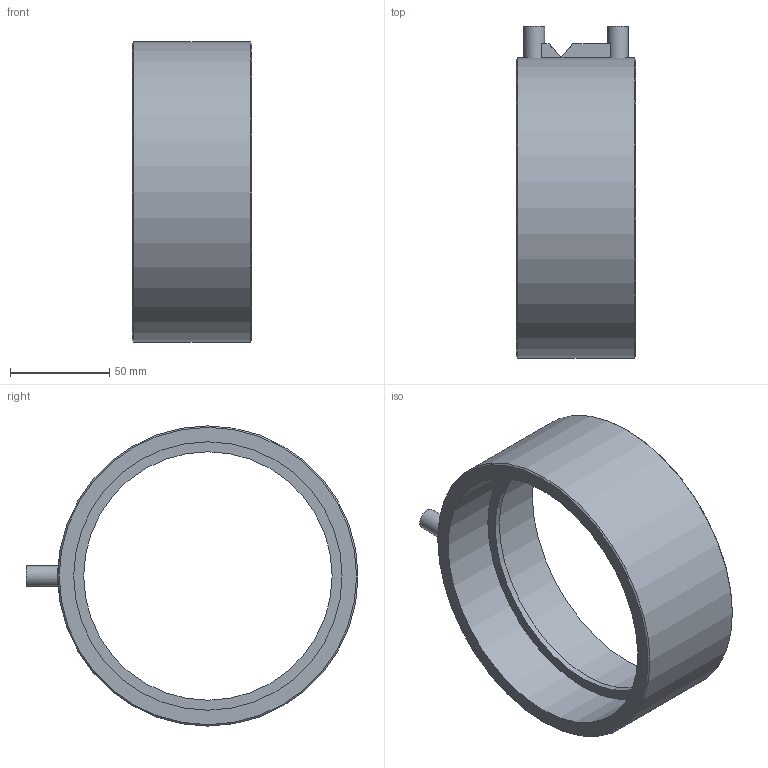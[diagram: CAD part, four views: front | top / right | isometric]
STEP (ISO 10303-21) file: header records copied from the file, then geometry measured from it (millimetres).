
FILE_DESCRIPTION(/* description */ (''),/* implementation_level */ '2;1');
FILE_NAME(/* name */ 'H:\Geberit-Teile\Export\Fertig zum Export\Elektro-Schweissmuffe_Ipart\stp\312771.stp',/* time_stamp */ '2017-07-24T13:32:40+02:00',/* author */ ('seihe2'),/* organization */ (''),/* preprocessor_version */ 'ST-DEVELOPER v15.2',/* originating_system */ 'Autodesk Inventor 2014',/* authorisation */ '');
FILE_SCHEMA (('AUTOMOTIVE_DESIGN { 1 0 10303 214 3 1 1 }'));
Length unit declared in the file: millimetre
Products named in the file (1): 312771
Bounding box: 60 x 167 x 151 mm (x, y, z)
Volume: 224096.1 mm3; surface area: 68715.2 mm2
Topology: 1 solids, 1 shells, 30 faces, 64 edges, 42 vertices
Faces by surface type: plane 14, cylinder 12, cone 4
Full cylindrical faces by diameter (mm): 7.4 x2, 10.4 x2, 125 x1, 135 x2, 137.2 x2, 151 x1
Entity records: 866 total; most frequent: CARTESIAN_POINT 242, DIRECTION 116, ORIENTED_EDGE 90, AXIS2_PLACEMENT_3D 52, EDGE_LOOP 51, EDGE_CURVE 45, VERTEX_POINT 36, STYLED_ITEM 31
